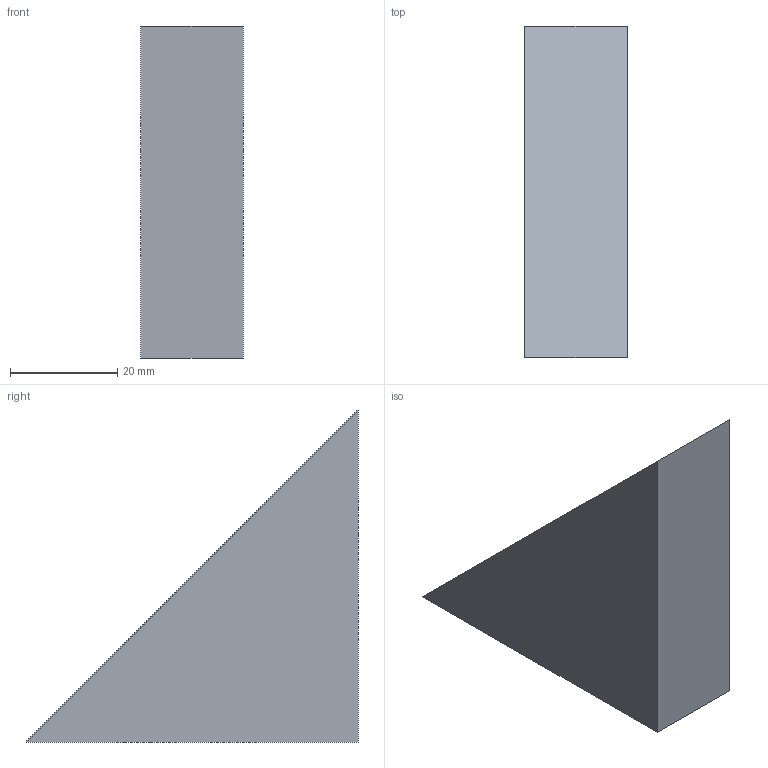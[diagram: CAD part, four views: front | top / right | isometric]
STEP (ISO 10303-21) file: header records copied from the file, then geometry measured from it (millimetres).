
FILE_DESCRIPTION(('FreeCAD Model'),'2;1');
FILE_NAME('Open CASCADE Shape Model','2026-10-06T09:33:39',('FreeCAD'),( 'FreeCAD'),'Open CASCADE STEP processor 7.8','FreeCAD','Unknown');
FILE_SCHEMA(('AUTOMOTIVE_DESIGN { 1 0 10303 214 1 1 1 1 }'));
Length unit declared in the file: millimetre
Products named in the file (1): Open CASCADE STEP translator 7.8 90
Bounding box: 19.05 x 62 x 62 mm (x, y, z)
Volume: 36614.1 mm3; surface area: 7876.5 mm2
Topology: 1 solids, 1 shells, 5 faces, 9 edges, 6 vertices
Faces by surface type: plane 5
Entity records: 133 total; most frequent: CARTESIAN_POINT 21, DIRECTION 21, ORIENTED_EDGE 18, EDGE_CURVE 9, LINE 9, VECTOR 9, AXIS2_PLACEMENT_3D 6, VERTEX_POINT 6
